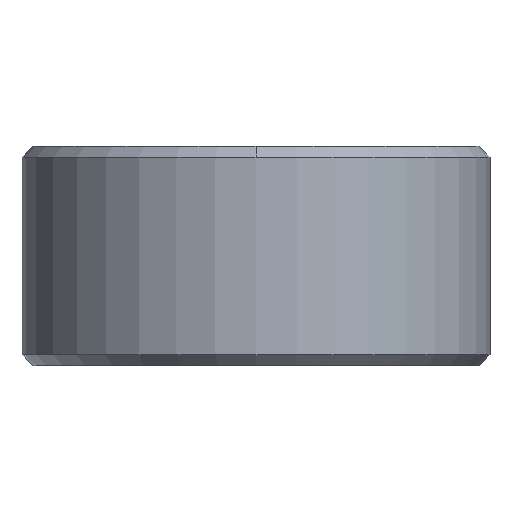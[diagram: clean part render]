
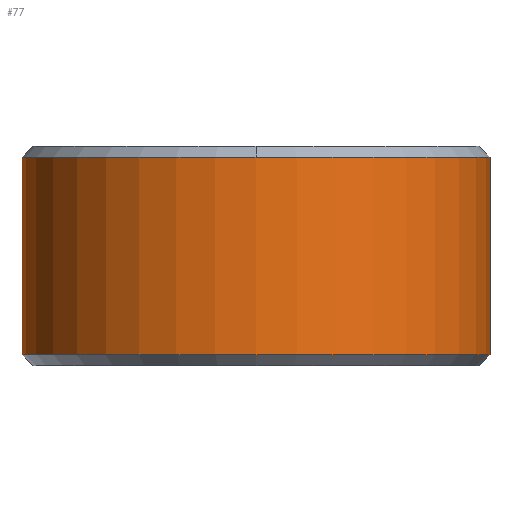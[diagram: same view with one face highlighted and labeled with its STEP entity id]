
A CAD part, front view. The second image highlights one B-rep face of the part: STEP entity #77.
In plain terms, the highlighted cylindrical face has radius 16 mm (diameter 32 mm), a partial arc.
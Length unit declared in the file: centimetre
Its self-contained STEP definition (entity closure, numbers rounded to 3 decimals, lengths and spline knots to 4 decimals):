
#48 = VERTEX_POINT ( 'NONE', #226 ) ;
#50 = EDGE_CURVE ( 'NONE', #97, #96, #219, .T. ) ;
#71 = ORIENTED_EDGE ( 'NONE', *, *, #108, .T. ) ;
#72 = ORIENTED_EDGE ( 'NONE', *, *, #81, .T. ) ;
#74 = ORIENTED_EDGE ( 'NONE', *, *, #50, .T. ) ;
#75 = ORIENTED_EDGE ( 'NONE', *, *, #86, .T. ) ;
#76 = ORIENTED_EDGE ( 'NONE', *, *, #99, .F. ) ;
#77 = ADVANCED_FACE ( 'NONE', ( #256 ), #255, .T. ) ;
#78 = EDGE_LOOP ( 'NONE', ( #76, #74, #75, #71, #72 ) ) ;
#81 = EDGE_CURVE ( 'NONE', #48, #100, #250, .T. ) ;
#86 = EDGE_CURVE ( 'NONE', #96, #106, #246, .T. ) ;
#96 = VERTEX_POINT ( 'NONE', #281 ) ;
#97 = VERTEX_POINT ( 'NONE', #280 ) ;
#99 = EDGE_CURVE ( 'NONE', #97, #100, #279, .T. ) ;
#100 = VERTEX_POINT ( 'NONE', #275 ) ;
#106 = VERTEX_POINT ( 'NONE', #263 ) ;
#108 = EDGE_CURVE ( 'NONE', #106, #48, #307, .T. ) ;
#215 = DIRECTION ( 'NONE',  ( 1., 0., 0. ) ) ;
#216 = DIRECTION ( 'NONE',  ( 0., 0., 1. ) ) ;
#217 = CARTESIAN_POINT ( 'NONE',  ( 0., 0., 0.075 ) ) ;
#218 = AXIS2_PLACEMENT_3D ( 'NONE', #217, #216, #215 ) ;
#219 = CIRCLE ( 'NONE', #218, 1.6 ) ;
#226 = CARTESIAN_POINT ( 'NONE',  ( 0., -1.6, 1.425 ) ) ;
#243 = DIRECTION ( 'NONE',  ( 0., 0., 1. ) ) ;
#244 = VECTOR ( 'NONE', #243, 100. ) ;
#245 = CARTESIAN_POINT ( 'NONE',  ( 1.6, 0., 0. ) ) ;
#246 = LINE ( 'NONE', #245, #244 ) ;
#247 = DIRECTION ( 'NONE',  ( 1., 0., 0. ) ) ;
#248 = DIRECTION ( 'NONE',  ( 0., 0., -1. ) ) ;
#249 = AXIS2_PLACEMENT_3D ( 'NONE', #254, #248, #247 ) ;
#250 = CIRCLE ( 'NONE', #249, 1.6 ) ;
#251 = DIRECTION ( 'NONE',  ( 1., 0., 0. ) ) ;
#252 = DIRECTION ( 'NONE',  ( 0., 0., 1. ) ) ;
#253 = AXIS2_PLACEMENT_3D ( 'NONE', #262, #252, #251 ) ;
#254 = CARTESIAN_POINT ( 'NONE',  ( 0., 0., 1.425 ) ) ;
#255 = CYLINDRICAL_SURFACE ( 'NONE', #253, 1.6 ) ;
#256 = FACE_OUTER_BOUND ( 'NONE', #78, .T. ) ;
#262 = CARTESIAN_POINT ( 'NONE',  ( 0., 0., 0. ) ) ;
#263 = CARTESIAN_POINT ( 'NONE',  ( 1.6, 0., 1.425 ) ) ;
#275 = CARTESIAN_POINT ( 'NONE',  ( -1.6, 0., 1.425 ) ) ;
#276 = DIRECTION ( 'NONE',  ( 0., 0., 1. ) ) ;
#277 = VECTOR ( 'NONE', #276, 100. ) ;
#278 = CARTESIAN_POINT ( 'NONE',  ( -1.6, 0., 0. ) ) ;
#279 = LINE ( 'NONE', #278, #277 ) ;
#280 = CARTESIAN_POINT ( 'NONE',  ( -1.6, 0., 0.075 ) ) ;
#281 = CARTESIAN_POINT ( 'NONE',  ( 1.6, 0., 0.075 ) ) ;
#303 = DIRECTION ( 'NONE',  ( 1., 0., 0. ) ) ;
#304 = DIRECTION ( 'NONE',  ( 0., 0., -1. ) ) ;
#305 = CARTESIAN_POINT ( 'NONE',  ( 0., 0., 1.425 ) ) ;
#306 = AXIS2_PLACEMENT_3D ( 'NONE', #305, #304, #303 ) ;
#307 = CIRCLE ( 'NONE', #306, 1.6 ) ;
